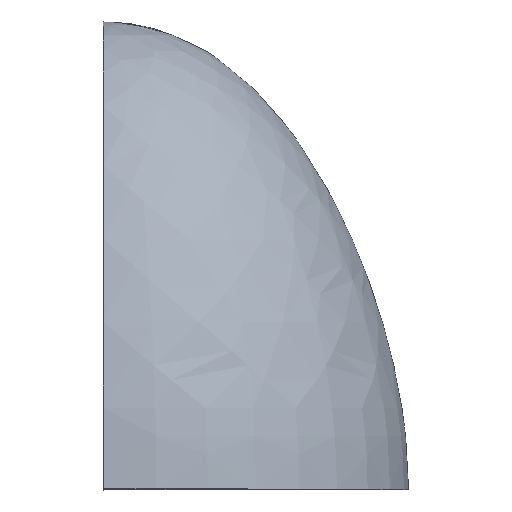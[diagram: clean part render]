
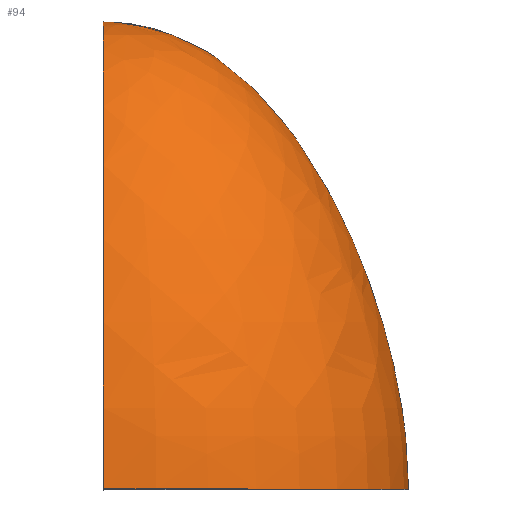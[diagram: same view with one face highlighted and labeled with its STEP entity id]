
A CAD part, top view. The second image highlights one B-rep face of the part: STEP entity #94.
In plain terms, the highlighted face is a revolution surface.
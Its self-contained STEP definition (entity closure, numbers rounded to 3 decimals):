
#52=CARTESIAN_POINT('Control Point',(0.,0.,79.)) ;
#53=CARTESIAN_POINT('Control Point',(0.,28.901,79.)) ;
#54=CARTESIAN_POINT('Control Point',(0.,62.764,70.088)) ;
#55=CARTESIAN_POINT('Control Point',(0.,101.588,52.264)) ;
#56=CARTESIAN_POINT('Control Point',(0.,121.,28.901)) ;
#57=CARTESIAN_POINT('Control Point',(0.,121.,0.)) ;
#58=CARTESIAN_POINT('Axis1P Location',(0.,0.,0.)) ;
#63=CARTESIAN_POINT('Control Point',(0.,0.,-79.)) ;
#64=CARTESIAN_POINT('Control Point',(0.,28.901,-79.)) ;
#65=CARTESIAN_POINT('Control Point',(0.,62.764,-70.088)) ;
#66=CARTESIAN_POINT('Control Point',(0.,101.588,-52.264)) ;
#67=CARTESIAN_POINT('Control Point',(0.,121.,-28.901)) ;
#68=CARTESIAN_POINT('Control Point',(0.,121.,0.)) ;
#69=CARTESIAN_POINT('Vertex',(0.,0.,-79.)) ;
#71=CARTESIAN_POINT('Vertex',(0.,121.,0.)) ;
#75=CARTESIAN_POINT('Control Point',(0.,0.,79.)) ;
#76=CARTESIAN_POINT('Control Point',(0.,28.901,79.)) ;
#77=CARTESIAN_POINT('Control Point',(0.,62.764,70.088)) ;
#78=CARTESIAN_POINT('Control Point',(0.,101.588,52.264)) ;
#79=CARTESIAN_POINT('Control Point',(0.,121.,28.901)) ;
#80=CARTESIAN_POINT('Control Point',(0.,121.,0.)) ;
#81=CARTESIAN_POINT('Vertex',(0.,0.,79.)) ;
#84=CARTESIAN_POINT('Axis2P3D Location',(0.,0.,0.)) ;
#59=DIRECTION('Axis1P Direction',(0.,1.,0.)) ;
#85=DIRECTION('Axis2P3D Direction',(0.,1.,0.)) ;
#86=AXIS2_PLACEMENT_3D('Circle Axis2P3D',#84,#85,$) ;
#90=ORIENTED_EDGE('',*,*,#73,.T.) ;
#91=ORIENTED_EDGE('',*,*,#83,.F.) ;
#92=ORIENTED_EDGE('',*,*,#88,.T.) ;
#94=ADVANCED_FACE('PartBody',(#93),#61,.T.) ;
#60=AXIS1_PLACEMENT('Revolution Surface Axis1P',#58,#59) ;
#51=B_SPLINE_CURVE_WITH_KNOTS('',5,(#52,#53,#54,#55,#56,#57),.UNSPECIFIED.,.F.,.U.,(6,6),(0.,144.506),.UNSPECIFIED.) ;
#62=B_SPLINE_CURVE_WITH_KNOTS('',5,(#63,#64,#65,#66,#67,#68),.UNSPECIFIED.,.F.,.U.,(6,6),(0.,144.506),.UNSPECIFIED.) ;
#74=B_SPLINE_CURVE_WITH_KNOTS('',5,(#75,#76,#77,#78,#79,#80),.UNSPECIFIED.,.F.,.U.,(6,6),(0.,144.506),.UNSPECIFIED.) ;
#87=CIRCLE('generated circle',#86,79.) ;
#73=EDGE_CURVE('',#70,#72,#62,.T.) ;
#83=EDGE_CURVE('',#82,#72,#74,.T.) ;
#88=EDGE_CURVE('',#82,#70,#87,.T.) ;
#89=EDGE_LOOP('',(#90,#91,#92)) ;
#93=FACE_OUTER_BOUND('',#89,.T.) ;
#61=SURFACE_OF_REVOLUTION('Surface of Revolution',#51,#60) ;
#70=VERTEX_POINT('',#69) ;
#72=VERTEX_POINT('',#71) ;
#82=VERTEX_POINT('',#81) ;
